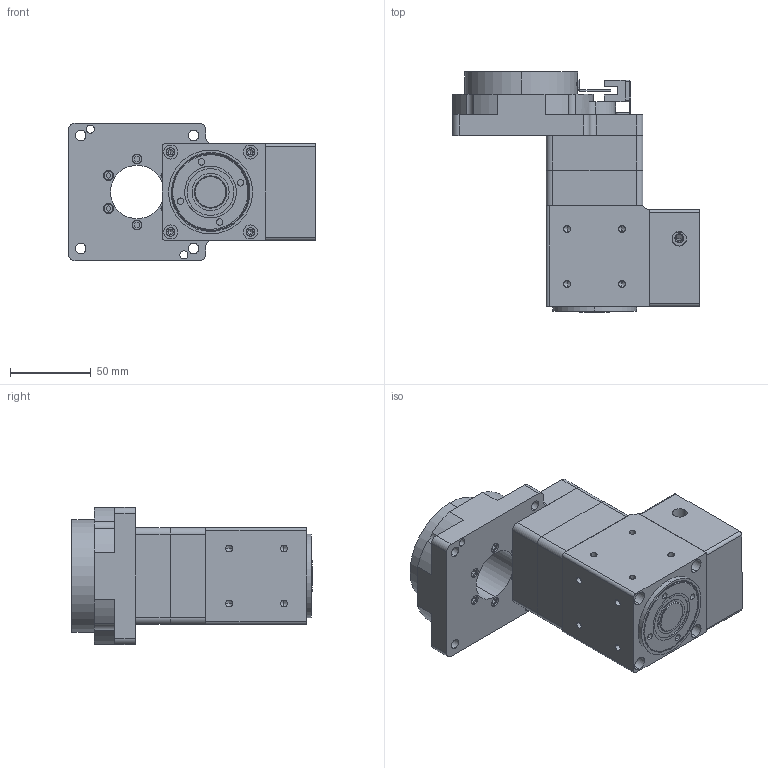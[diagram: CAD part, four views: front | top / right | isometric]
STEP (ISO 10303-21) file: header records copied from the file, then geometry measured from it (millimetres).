
FILE_DESCRIPTION(('Open CASCADE Model'),'2;1');
FILE_NAME('Open CASCADE Shape Model','2026-10-11T03:02:18',('Author'),( 'Open CASCADE'),'Open CASCADE STEP processor 7.8','Open CASCADE 7.8' ,'Unknown');
FILE_SCHEMA(('AUTOMOTIVE_DESIGN { 1 0 10303 214 1 1 1 1 }'));
Length unit declared in the file: millimetre
Products named in the file (4): NTF85-R-05-PVFD60-M5(配伺服400W 输入14-50-70-M5); NTF85-R-05-PVFD60-M5(配伺服400W 输入14-50-70-M5)-01; NTF85-R-05-PVFD60-M5(配伺服400W 输入14-50-70-M5)-02; NTF85-R-05-PVFD60-M5(配伺服400W 输入14-50-70-M5)-03
Assembly tree (3 placements, depth 2):
  NTF85-R-05-PVFD60-M5(配伺服400W 输入14-50-70-M5)
    NTF85-R-05-PVFD60-M5(配伺服400W 输入14-50-70-M5)-01
    NTF85-R-05-PVFD60-M5(配伺服400W 输入14-50-70-M5)-02
    NTF85-R-05-PVFD60-M5(配伺服400W 输入14-50-70-M5)-03
Bounding box: 153 x 149 x 85 mm (x, y, z)
Volume: 637096.4 mm3; surface area: 192023 mm2
Topology: 17 solids, 25 shells, 2000 faces, 5820 edges, 3790 vertices
Faces by surface type: plane 1012, cylinder 475, bspline 304, cone 209
Entity records: 230407 total; most frequent: CARTESIAN_POINT 127315, DIRECTION 15976, ORIENTED_EDGE 11480, PCURVE 11480, DEFINITIONAL_REPRESENTATION 11480, LINE 9121, VECTOR 9121, EDGE_CURVE 5740
